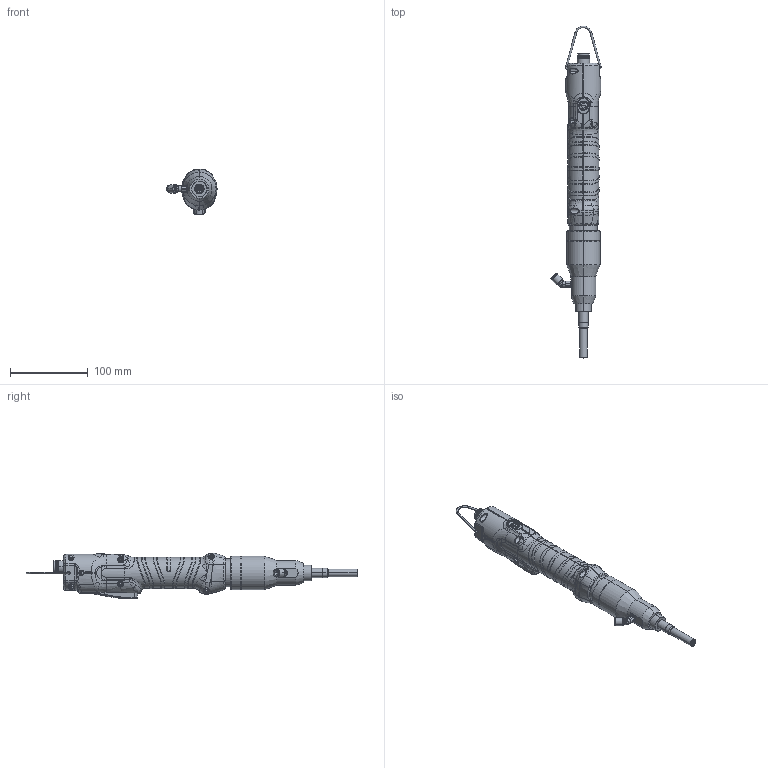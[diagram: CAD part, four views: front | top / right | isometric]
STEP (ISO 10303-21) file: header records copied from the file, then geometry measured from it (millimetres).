
FILE_DESCRIPTION (( 'STEP AP214' ), '1' );
FILE_NAME ('VTP-M.STEP', '2026-02-02T14:27:38', ( '' ), ( '' ), 'SwSTEP 2.0', 'SolidWorks 2022', '' );
FILE_SCHEMA (( 'AUTOMOTIVE_DESIGN' ));
Length unit declared in the file: millimetre
Products named in the file (1): VTP-M
Bounding box: 64.97 x 428.11 x 58.96 mm (x, y, z)
Surface area: 57621.4 mm2 (no closed solid volume)
Topology: 0 solids, 30 shells, 872 faces, 2939 edges, 2039 vertices
Faces by surface type: bspline 391, cylinder 202, cone 114, plane 106, torus 55, sphere 4
Entity records: 74698 total; most frequent: CARTESIAN_POINT 44234, ORIENTED_EDGE 4829, DIRECTION 3050, EDGE_CURVE 2933, VERTEX_POINT 2039, B_SPLINE_CURVE_WITH_KNOTS 1427, AXIS2_PLACEMENT_3D 1185, EDGE_LOOP 919
